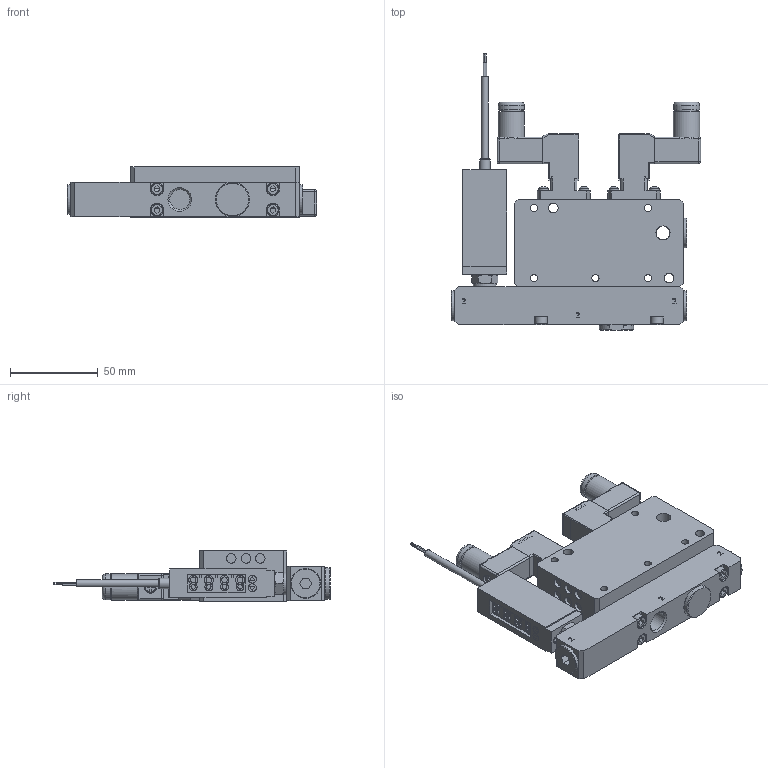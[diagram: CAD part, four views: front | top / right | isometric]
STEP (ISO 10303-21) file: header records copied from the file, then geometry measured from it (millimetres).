
FILE_DESCRIPTION(/* description */ ('GENERATORI DI VUOTO MULTISTADIO MODULARE 8 UGELLI (GVMES-8)'),/* implementation_level */ '2;1');
FILE_NAME(/* name */ 'C:\PNX_VAULTFOLDER\Area Tecnica\Disegni\VARIE-3D\Componenti\1900 (vuoto)\19M14_M_18_ME_ED.stp',/* time_stamp */ '2021-05-04T09:55:45+02:00',/* author */ ('maniean1'),/* organization */ (''),/* preprocessor_version */ 'ST-DEVELOPER v18.1',/* originating_system */ 'Autodesk Inventor 2021',/* authorisation */ '');
FILE_SCHEMA (('AUTOMOTIVE_DESIGN { 1 0 10303 214 3 1 1 }'));
Length unit declared in the file: millimetre
Products named in the file (6): 19M14.M.18.ME.ED; 19M14_M_15_ME_ED_c; N221.0F; DS.30.C.C.F8.#.0; T10714; 315.11.00
Assembly tree (9 placements, depth 2):
  19M14.M.18.ME.ED
    19M14_M_15_ME_ED_c
    N221.0F  x2
    DS.30.C.C.F8.#.0
    T10714  x3
    315.11.00  x2
Bounding box: 141.9 x 157.3 x 28.5 mm (x, y, z)
Volume: 248762.3 mm3; surface area: 57771.1 mm2
Topology: 9 solids, 33 shells, 1262 faces, 3129 edges, 2014 vertices
Faces by surface type: plane 657, cylinder 276, bspline 218, cone 63, torus 30, sphere 18
Full cylindrical faces by diameter (mm): 0.6 x3, 1 x4, 2 x2, 2.2 x2, 2.459 x6, 3 x6, 3.2 x4, 3.242 x4, 3.8 x4, 4 x7, 4.1 x10, 4.4 x1, 4.9 x1, 5.5 x12, 6 x1, 6.5 x2, 6.9 x1, 7 x7, 7.6 x2, 8 x2, 8.566 x1, 9.73 x1, 10 x1, 10.4 x1, 10.8 x2, 11.445 x4, 12.9 x1, 13 x1, 13.2 x3, 14.8 x2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
Entity records: 35006 total; most frequent: CARTESIAN_POINT 13643, ORIENTED_EDGE 4338, DIRECTION 3734, EDGE_CURVE 2169, VERTEX_POINT 1413, LINE 1258, VECTOR 1258, AXIS2_PLACEMENT_3D 1238
